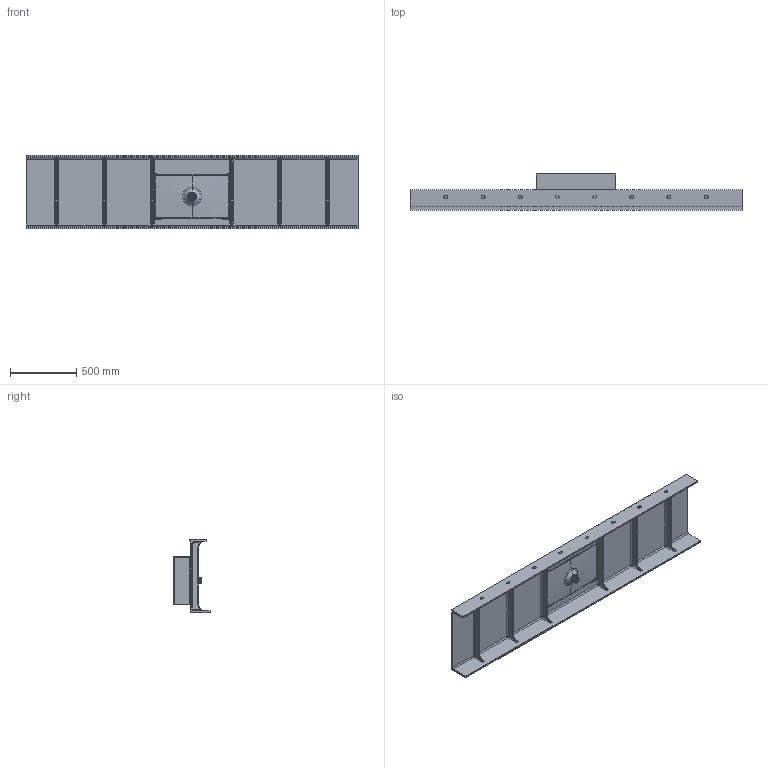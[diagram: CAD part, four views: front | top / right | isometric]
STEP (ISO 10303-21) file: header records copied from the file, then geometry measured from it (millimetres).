
FILE_DESCRIPTION (( 'STEP AP203' ), '1' );
FILE_NAME ('Thiel360x600x125_M.STEP', '2022-09-29T08:45:38', ( '' ), ( '' ), 'SwSTEP 2.0', 'SolidWorks 2020', '' );
FILE_SCHEMA (( 'CONFIG_CONTROL_DESIGN' ));
Products named in the file (1): Thiel360x600x125_M
Bounding box: 2500 x 275 x 550 mm (x, y, z)
Volume: 31927933.6 mm3; surface area: 4796705 mm2
Topology: 8 solids, 8 shells, 695 faces, 1796 edges, 1074 vertices
Faces by surface type: cylinder 266, bspline 184, plane 122, torus 67, cone 32, sphere 24
Entity records: 38368 total; most frequent: CARTESIAN_POINT 23195, ORIENTED_EDGE 3506, DIRECTION 2868, EDGE_CURVE 1753, AXIS2_PLACEMENT_3D 1140, VERTEX_POINT 1068, EDGE_LOOP 743, FACE_OUTER_BOUND 695
